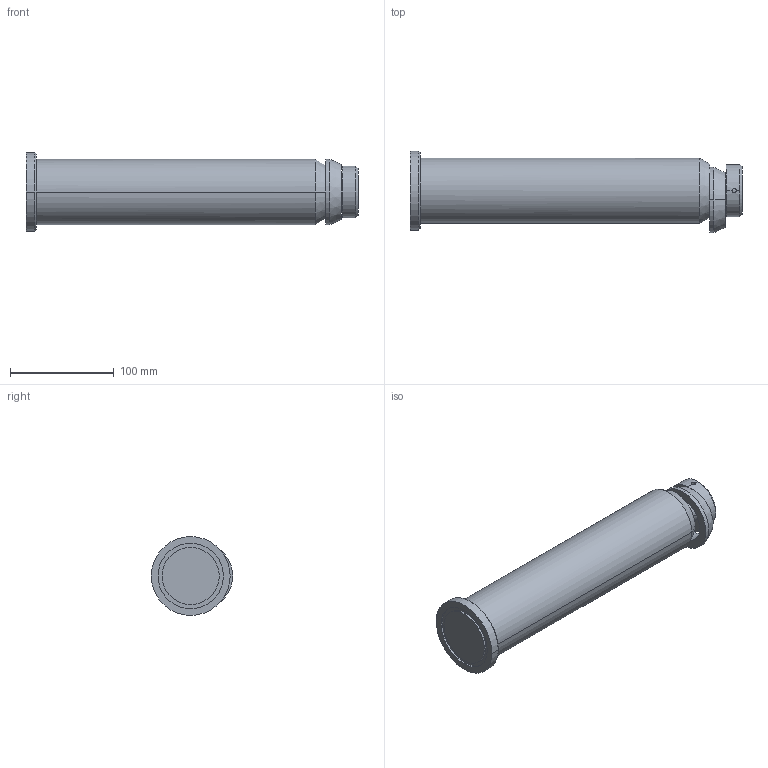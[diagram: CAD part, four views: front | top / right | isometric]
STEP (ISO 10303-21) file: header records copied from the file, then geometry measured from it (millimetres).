
FILE_DESCRIPTION(('CATIA V5 STEP Exchange'),'2;1');
FILE_NAME('C:\Users\Raffaele\Desktop\3D X SITO CF\PERNI -STAFFE SOLLEVAMENTO\395X\GSB_OILLESS_C10303063280\STEP-2.03\395X-063-280.stp','2019-07-03T13:28:25+00:00',('none'),('none'),'CATIA Version 5 Release 20 GA (IN-10)','CATIA V5 STEP AP203','none');
FILE_SCHEMA(('CONFIG_CONTROL_DESIGN'));
Length unit declared in the file: millimetre
Products named in the file (1): 395X-063-280
Assembly tree (3 placements, depth 2):
  395X-063-280
    #58
    #723
    #1088
Bounding box: 320 x 78.5 x 76 mm (x, y, z)
Volume: 963203.6 mm3; surface area: 82492.9 mm2
Topology: 3 solids, 3 shells, 42 faces, 124 edges, 88 vertices
Faces by surface type: cylinder 22, plane 10, cone 10
Entity records: 1840 total; most frequent: CARTESIAN_POINT 626, ORIENTED_EDGE 248, DIRECTION 198, EDGE_CURVE 124, AXIS2_PLACEMENT_3D 114, VERTEX_POINT 88, CIRCLE 66, EDGE_LOOP 50
